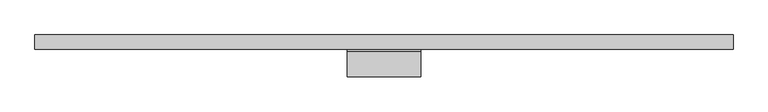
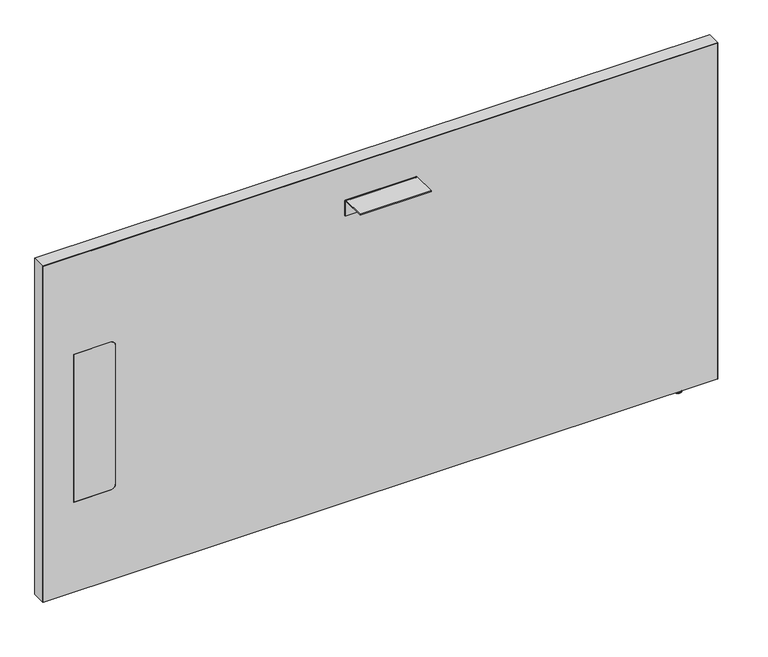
"""IFC4 building model written with IfcOpenShell, lengths in millimetres: furniture geometry, Steelcase - Answer Solution - Boundary Screen - Straight - Single Sided : 30H x 57W."""

from ifc_helpers import new_model, si_unit, point, frame, frame_2d, origin, place, context, project, spatial, polyline, circle_curve, ellipse_curve, trimmed, segment, composite_curve, outline, extrude, source, transform, mapped, element, save
from ifc_brep_helpers import plane_surface, cylinder_surface, revolved_surface, advanced_brep


def furniture_a0ddc0b7(model_context):
    return source(origin(), model_context, "Body", "SolidModel", [
        extrude(outline(composite_curve([segment(polyline([(-86.8398151, 696.4680019), (-86.8398151, 698.5), (-34.9450855, 698.5)]), True, "CONTINUOUS"), segment(trimmed(circle_curve(frame_2d((-34.9450855, 693.2447477)), 5.2552523), [point((-34.9450855, 698.5))], [point((-29.6898332, 693.2447477))], False, "CARTESIAN"), True, "CONTINUOUS"), segment(polyline([(-29.6898332, 693.2447477), (-29.6898332, 660.4), (-31.7218162, 660.4), (-31.7218162, 693.0058743)]), True, "CONTINUOUS"), segment(trimmed(circle_curve(frame_2d((-35.1839438, 693.0058743)), 3.4621276), [point((-31.7218162, 693.0058743))], [point((-35.1839438, 696.4680019))], True, "CARTESIAN"), True, "CONTINUOUS"), segment(polyline([(-35.1839438, 696.4680019), (-86.8398151, 696.4680019)]), True, "CONTINUOUS")], self_intersect=False)), frame((1.2191407, 0.0, 0.0), z_axis=(1.0, 0.0, 0.0), x_axis=(0.0, 1.0, 0.0)), (0.0, 0.0, 1.0), 152.4000969),
        advanced_brep(
        [(724.1286488, -23.7588726, 9.9059849), (724.1286488, -5.9309607, 9.9059849), (724.1286488, -14.8449166, 9.9059849), (724.1286488, -23.7588726, 2.9673238), (724.1286488, -5.9309607, 2.9673238), (724.1286488, -22.7915354, 2.9673238), (724.1286488, -6.8982978, 2.9673238), (724.1286488, -22.7915354, 1.6569081), (724.1286488, -6.8982978, 1.6569081), (724.1286488, -21.1346274, 0.0), (724.1286488, -8.5552059, 0.0), (724.1286488, -14.8449166, 0.0)],
        [
            (0, 1, circle_curve(frame((724.1286488, -14.8449166, 9.9059849), z_axis=(0.0, 0.0, 1.0), x_axis=(0.0, 1.0, 0.0)), 8.913956)),
            (1, 2),
            (2, 0),
            (1, 0, circle_curve(frame((724.1286488, -14.8449166, 9.9059849), z_axis=(0.0, 0.0, 1.0), x_axis=(0.0, 1.0, 0.0)), 8.913956)),
            (3, 4, circle_curve(frame((724.1286488, -14.8449166, 2.9673238), z_axis=(0.0, 0.0, 1.0), x_axis=(0.0, 1.0, 0.0)), 8.913956)),
            (4, 1),
            (0, 3),
            (4, 3, circle_curve(frame((724.1286488, -14.8449166, 2.9673238), z_axis=(0.0, 0.0, 1.0), x_axis=(0.0, 1.0, 0.0)), 8.913956)),
            (5, 6, circle_curve(frame((724.1286488, -14.8449166, 2.9673238), z_axis=(0.0, 0.0, 1.0), x_axis=(0.0, 1.0, 0.0)), 7.9466188)),
            (6, 4),
            (3, 5),
            (6, 5, circle_curve(frame((724.1286488, -14.8449166, 2.9673238), z_axis=(0.0, 0.0, 1.0), x_axis=(0.0, 1.0, 0.0)), 7.9466188)),
            (7, 8, circle_curve(frame((724.1286488, -14.8449166, 1.6569081), z_axis=(0.0, 0.0, 1.0), x_axis=(0.0, 1.0, 0.0)), 7.9466188)),
            (8, 6),
            (5, 7),
            (8, 7, circle_curve(frame((724.1286488, -14.8449166, 1.6569081), z_axis=(0.0, 0.0, 1.0), x_axis=(0.0, 1.0, 0.0)), 7.9466188)),
            (9, 10, circle_curve(frame((724.1286488, -14.8449166, 0.0), z_axis=(0.0, 0.0, 1.0), x_axis=(0.0, 1.0, 0.0)), 6.2897107)),
            (10, 8, circle_curve(frame((724.1286488, -8.5552059, 1.6569081), z_axis=(1.0, 0.0, 0.0), x_axis=(0.0, 1.0, 0.0)), 1.6569081)),
            (7, 9, circle_curve(frame((724.1286488, -21.1346274, 1.6569081), z_axis=(1.0, 0.0, 0.0), x_axis=(0.0, -1.0, 0.0)), 1.6569081)),
            (10, 9, circle_curve(frame((724.1286488, -14.8449166, 0.0), z_axis=(0.0, 0.0, 1.0), x_axis=(0.0, 1.0, 0.0)), 6.2897107)),
            (11, 10),
            (9, 11),
        ],
        [
            plane_surface(frame((724.1286488, -14.8449166, 9.9059849), z_axis=(0.0, 0.0, 1.0), x_axis=(0.0, 1.0, 0.0))),
            cylinder_surface(frame((724.1286488, -14.8449166, 9.9059849), z_axis=(0.0, 0.0, -1.0), x_axis=(0.0, 1.0, 0.0)), 8.913956),
            plane_surface(frame((724.1286488, -14.8449166, 2.9673238), z_axis=(0.0, 0.0, -1.0), x_axis=(0.0, 1.0, 0.0))),
            cylinder_surface(frame((724.1286488, -14.8449166, 9.9059849), z_axis=(0.0, 0.0, -1.0), x_axis=(0.0, 1.0, 0.0)), 7.9466188),
            revolved_surface(trimmed(ellipse_curve(frame((724.1286488, -8.5552059, 1.6569081), z_axis=(-1.0, 0.0, 0.0), x_axis=(0.0, 1.0, 0.0)), 1.6569081, 1.6569081), [point((724.1286488, -6.8982978, 1.6569081))], [point((724.1286488, -8.5552059, 0.0))], True, "CARTESIAN"), (724.1286488, -14.8449166, 9.9059849), (0.0, 0.0, -1.0)),
            plane_surface(frame((724.1286488, -14.8449166, 0.0), z_axis=(0.0, 0.0, -1.0), x_axis=(0.0, 1.0, 0.0))),
        ],
        [
            (0, [[1, 2, 3]]),
            (0, [[4, -3, -2]]),
            (1, [[5, 6, -1, 7]]),
            (1, [[8, -7, -4, -6]]),
            (2, [[9, 10, -5, 11]]),
            (2, [[12, -11, -8, -10]]),
            (3, [[13, 14, -9, 15]]),
            (3, [[16, -15, -12, -14]]),
            (4, [[17, 18, -13, 19]]),
            (4, [[20, -19, -16, -18]]),
            (5, [[21, -17, 22]]),
            (5, [[-22, -20, -21]]),
        ],
    ),
        advanced_brep(
        [(800.2780168, 0.0, 771.942118), (800.2780168, 0.0, 9.9059849), (-645.4902221, 0.0, 9.9059849), (-645.4902221, 0.0, 771.942118), (800.2780168, -29.6898332, 771.942118), (-645.4902221, -29.6898332, 771.942118), (-645.4902221, -29.6898332, 9.9059849), (800.2780168, -29.6898332, 9.9059849), (-501.1463873, -29.6898332, 549.6162029), (-490.9863873, -29.6898332, 539.4562029), (-490.9863873, -29.6898332, 223.9362137), (-501.1463873, -29.6898332, 213.7762137), (-580.800285, -29.6898332, 213.7762137), (-580.800285, -29.6898332, 549.6162029), (-580.800285, -29.0550397, 549.6162029), (-501.1463873, -29.0550397, 549.6162029), (-580.800285, -29.0550397, 213.7762137), (-501.1463873, -29.0550397, 213.7762137), (-490.9863873, -29.0550397, 223.9362137), (-490.9863873, -29.0550397, 539.4562029)],
        [
            (0, 1),
            (1, 2),
            (2, 3),
            (3, 0),
            (4, 5),
            (5, 6),
            (6, 7),
            (7, 4),
            (8, 9, circle_curve(frame((-501.1463873, -29.6898332, 539.4562029), z_axis=(0.0, 1.0, 0.0), x_axis=(0.0, 0.0, 1.0)), 10.16)),
            (9, 10),
            (10, 11, circle_curve(frame((-501.1463873, -29.6898332, 223.9362137), z_axis=(0.0, 1.0, 0.0), x_axis=(0.0, 0.0, 1.0)), 10.16)),
            (11, 12),
            (12, 13),
            (13, 8),
            (0, 4),
            (7, 1),
            (6, 2),
            (5, 3),
            (13, 14),
            (14, 15),
            (15, 8),
            (12, 16),
            (16, 14),
            (11, 17),
            (17, 16),
            (10, 18),
            (18, 17, circle_curve(frame((-501.1463873, -29.0550397, 223.9362137), z_axis=(0.0, 1.0, 0.0), x_axis=(0.0, 0.0, 1.0)), 10.16)),
            (9, 19),
            (19, 18),
            (15, 19, circle_curve(frame((-501.1463873, -29.0550397, 539.4562029), z_axis=(0.0, 1.0, 0.0), x_axis=(0.0, 0.0, 1.0)), 10.16)),
        ],
        [
            plane_surface(frame((800.2780168, 0.0, 771.942118), z_axis=(0.0, 1.0, 0.0), x_axis=(0.0, 0.0, -1.0))),
            plane_surface(frame((800.2780168, -29.6898332, 771.942118), z_axis=(0.0, -1.0, 0.0), x_axis=(0.0, 0.0, 1.0))),
            plane_surface(frame((800.2780168, 0.0, 771.942118), z_axis=(1.0, 0.0, 0.0), x_axis=(0.0, -1.0, 0.0))),
            plane_surface(frame((800.2780168, 0.0, 9.9059849), z_axis=(0.0, 0.0, -1.0), x_axis=(0.0, -1.0, 0.0))),
            plane_surface(frame((-645.4902221, 0.0, 9.9059849), z_axis=(-1.0, 0.0, 0.0), x_axis=(0.0, -1.0, 0.0))),
            plane_surface(frame((-645.4902221, 0.0, 771.942118), z_axis=(0.0, 0.0, 1.0), x_axis=(0.0, -1.0, 0.0))),
            plane_surface(frame((-501.1463873, 0.0, 549.6162029), z_axis=(0.0, 0.0, -1.0), x_axis=(0.0, -1.0, 0.0))),
            plane_surface(frame((-580.800285, 0.0, 549.6162029), z_axis=(1.0, 0.0, 0.0), x_axis=(0.0, -1.0, 0.0))),
            plane_surface(frame((-580.800285, 0.0, 213.7762137), z_axis=(0.0, 0.0, 1.0), x_axis=(0.0, -1.0, 0.0))),
            revolved_surface(polyline([(-501.1463873, -29.6898332, 234.0962137), (-501.1463873, -29.0550397, 234.0962137)]), (-501.1463873, -29.6898332, 223.9362137), (0.0, -1.0, 0.0)),
            plane_surface(frame((-490.9863873, 0.0, 223.9362137), z_axis=(-1.0, 0.0, 0.0), x_axis=(0.0, -1.0, 0.0))),
            revolved_surface(polyline([(-501.1463873, -29.6898332, 549.6162029), (-501.1463873, -29.0550397, 549.6162029)]), (-501.1463873, -29.6898332, 539.4562029), (0.0, -1.0, 0.0)),
            plane_surface(frame((-490.9863873, -29.0550397, 629.172953), z_axis=(0.0, -1.0, 0.0), x_axis=(0.0, 0.0, 1.0))),
        ],
        [
            (0, [[1, 2, 3, 4]]),
            (1, [[5, 6, 7, 8], [9, 10, 11, 12, 13, 14]]),
            (2, [[-1, 15, -8, 16]]),
            (3, [[-2, -16, -7, 17]]),
            (4, [[-3, -17, -6, 18]]),
            (5, [[-4, -18, -5, -15]]),
            (6, [[-14, 19, 20, 21]]),
            (7, [[-13, 22, 23, -19]]),
            (8, [[-12, 24, 25, -22]]),
            (9, [[-11, 26, 27, -24]]),
            (10, [[-10, 28, 29, -26]]),
            (11, [[-9, -21, 30, -28]]),
            (12, [[-20, -23, -25, -27, -29, -30]]),
        ],
    ),
        extrude(outline(composite_curve([segment(polyline([(549.6162029, -501.1463873), (549.6162029, -580.800285), (213.7762137, -580.800285), (213.7762137, -501.1463873)]), True, "CONTINUOUS"), segment(trimmed(circle_curve(frame_2d((223.9362137, -501.1463873)), 10.16), [point((213.7762137, -501.1463873))], [point((223.9362137, -490.9863873))], False, "CARTESIAN"), True, "CONTINUOUS"), segment(polyline([(223.9362137, -490.9863873), (539.4562029, -490.9863873)]), True, "CONTINUOUS"), segment(trimmed(circle_curve(frame_2d((539.4562029, -501.1463873)), 10.16), [point((539.4562029, -490.9863873))], [point((549.6162029, -501.1463873))], False, "CARTESIAN"), True, "CONTINUOUS")], self_intersect=False)), frame((0.0, -29.6898332, 0.0), z_axis=(0.0, 1.0, 0.0), x_axis=(0.0, 0.0, 1.0)), (0.0, 0.0, 1.0), 0.6347935),
        extrude(outline(polyline([(772.922, 801.3191891), (772.922, -646.4808109), (9.9059849, -646.4808109), (9.9059849, -645.4902221), (771.942118, -645.4902221), (771.942118, 800.2780168), (9.9059849, 800.2780168), (9.9059849, 801.3191891), (772.922, 801.3191891)])), frame((0.0, -29.6898332, 0.0), z_axis=(0.0, 1.0, 0.0), x_axis=(0.0, 0.0, 1.0)), (0.0, 0.0, 1.0), 29.6898332),
    ])


if __name__ == "__main__":
    model = new_model("IFC4")
    model_context = context("Model", 3, world=origin())
    ifc_project = project(units=[si_unit("LENGTHUNIT", "METRE", prefix="MILLI")], contexts=[model_context])
    site = spatial("IfcSite", under=ifc_project)
    building = spatial("IfcBuilding", under=site)
    placement = place(None, origin())
    furniture_shape = furniture_a0ddc0b7(model_context)
    element("IfcFurniture", 1, ObjectType="Steelcase - Answer Solution - Boundary Screen - Straight - Single Sided : 30H x 57W", at=placement, inside=building, context=model_context, shape_type="MappedRepresentation", body=[
        mapped(furniture_shape, transform((0.0, 0.0, 0.0), x_axis=(1.0, 0.0, 0.0), y_axis=(0.0, 1.0, 0.0), z_axis=(0.0, 0.0, 1.0))),
    ])
    save(model, "model.ifc")
